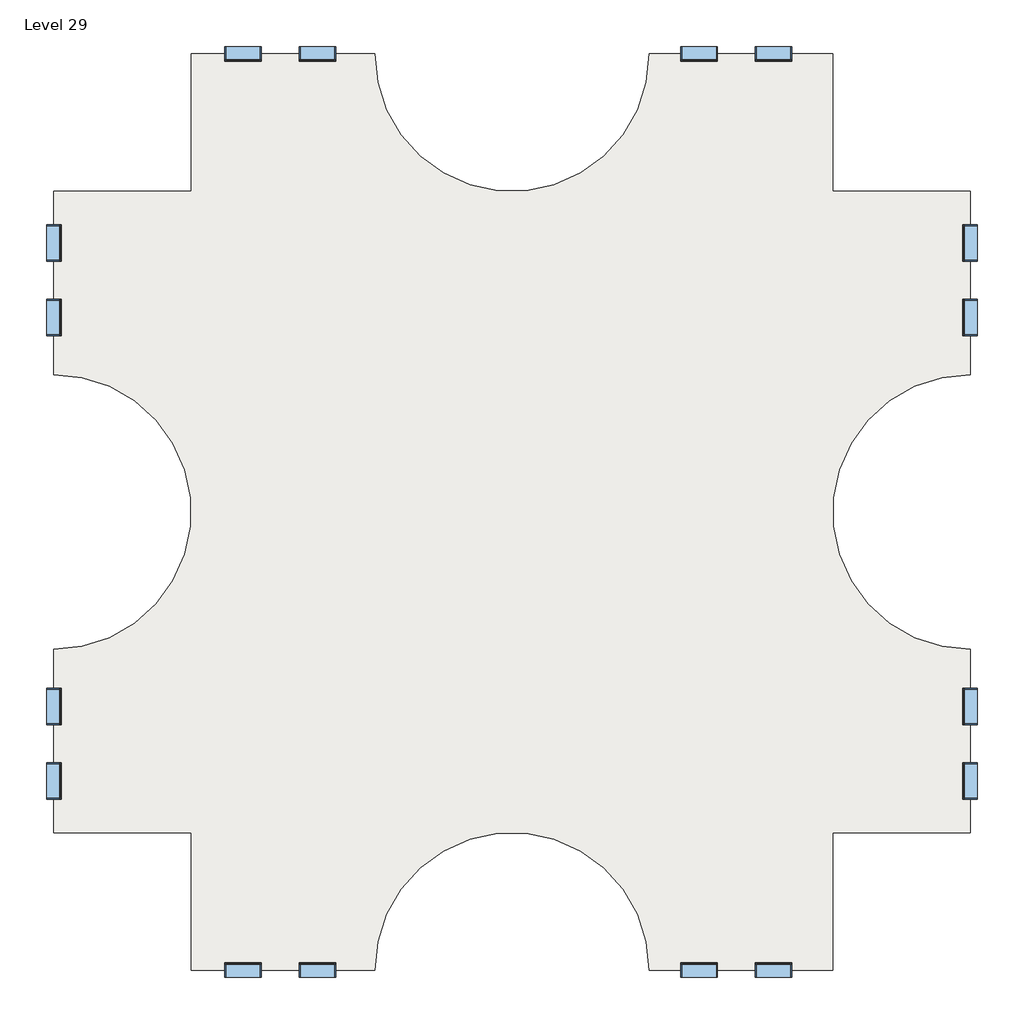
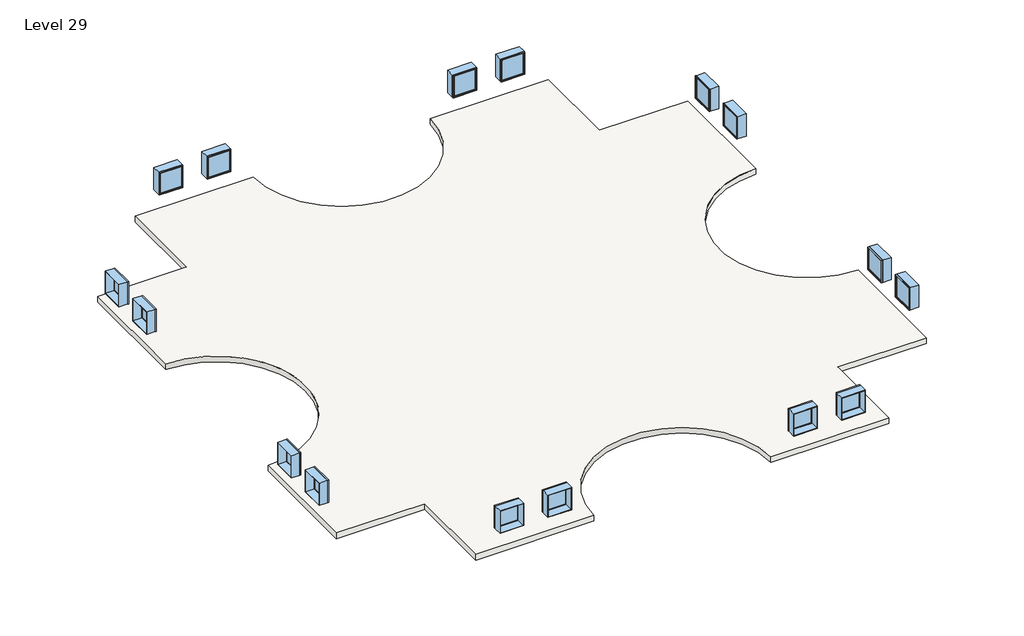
# One storey: 16 windows, 3 slabs.
"""IFC4 building model written with IfcOpenShell, lengths in millimetres."""

import ifcopenshell
import ifcopenshell.guid

model = None  # the IFC model being written
_history = None  # IfcOwnerHistory: only IFC2X3 demands one
_inside = {}  # id of a spatial element -> (the spatial element, [elements in it])
_under = {}  # id of a project, library or spatial element -> (it, [spatial elements below it])
_declared = {}  # id of a project -> (the project, [libraries it declares])
_typed = {}  # id of a type object -> (the type object, [elements of that type])
_made_of = {}  # id of a material, layer set ... -> (it, [elements and type objects made of it])


def new_model(schema):
    """Start an empty IFC model of exactly this schema.

    Asked for "IFC4X3", IfcOpenShell would pick the latest addendum, in which some entities
    have other attributes; the version numbers below select the first issue.
    IFC2X3 requires an IfcOwnerHistory on every rooted entity: one is made here for all.
    """
    global model, _history
    if schema == "IFC4X3":
        model = ifcopenshell.file(schema_version=(4, 3, 0, 0))
    else:
        model = ifcopenshell.file(schema=schema)
    _inside.clear()
    _under.clear()
    _declared.clear()
    _typed.clear()
    _made_of.clear()
    _history = None
    if model.schema == "IFC2X3":
        org = make("IfcOrganization", Name="unknown")
        user = make(
            "IfcPersonAndOrganization",
            ThePerson=make("IfcPerson", FamilyName="unknown"),
            TheOrganization=org,
        )
        app = make(
            "IfcApplication",
            ApplicationDeveloper=org,
            Version="unknown",
            ApplicationFullName="unknown",
            ApplicationIdentifier="unknown",
        )
        _history = make(
            "IfcOwnerHistory",
            OwningUser=user,
            OwningApplication=app,
            ChangeAction="ADDED",
            CreationDate=0,
        )
    return model


def make(cls, **values):
    """One entity of the class cls with the attributes given. An attribute that is None is left unset."""
    return model.create_entity(
        cls, **{name: value for name, value in values.items() if value is not None}
    )


def rooted(cls, **values):
    """An entity with a GlobalId (a new one), such as an element, a storey or a relation."""
    return make(cls, GlobalId=ifcopenshell.guid.new(), OwnerHistory=_history, **values)


def si_unit(unit_type, name, prefix=None):
    """IfcSIUnit, for example si_unit("LENGTHUNIT", "METRE", prefix="MILLI")."""
    return make("IfcSIUnit", UnitType=unit_type, Prefix=prefix, Name=name)


def assignment(units):
    """IfcUnitAssignment: the units of a project."""
    return None if units is None else make("IfcUnitAssignment", Units=units)


def point(xyz):
    """IfcCartesianPoint."""
    return None if xyz is None else make("IfcCartesianPoint", Coordinates=xyz)


def direction(xyz):
    """IfcDirection."""
    return None if xyz is None else make("IfcDirection", DirectionRatios=xyz)


def frame(location, z_axis=None, x_axis=None):
    """IfcAxis2Placement3D, a coordinate frame: its origin and axes. An axis left out is left unset."""
    return make(
        "IfcAxis2Placement3D",
        Location=point(location),
        Axis=direction(z_axis),
        RefDirection=direction(x_axis),
    )


def frame_2d(location, x_axis=None):
    """IfcAxis2Placement2D, a coordinate frame in the plane: its origin and x axis."""
    return make(
        "IfcAxis2Placement2D", Location=point(location), RefDirection=direction(x_axis)
    )


def origin():
    """The frame at (0, 0, 0) with its axes left unset."""
    return frame((0.0, 0.0, 0.0))


def place(relative_to, where):
    """IfcLocalPlacement: puts the frame where relative to a parent placement (None: the world)."""
    return make(
        "IfcLocalPlacement", PlacementRelTo=relative_to, RelativePlacement=where
    )


def context(
    kind, dimensions, precision=None, world=None, true_north=None, identifier=None
):
    """IfcGeometricRepresentationContext, for example the 3D "Model" context."""
    return make(
        "IfcGeometricRepresentationContext",
        ContextIdentifier=identifier,
        ContextType=kind,
        CoordinateSpaceDimension=dimensions,
        Precision=precision,
        WorldCoordinateSystem=world,
        TrueNorth=true_north,
    )


def project(units=None, contexts=None):
    """IfcProject with its units and contexts."""
    return rooted(
        "IfcProject",
        Name="project",
        RepresentationContexts=contexts,
        UnitsInContext=assignment(units),
    )


def spatial(cls, under=None, at=None, **own):
    """A site, building, storey or space (cls), placed at a placement, below another one or the project."""
    s = rooted(cls, ObjectPlacement=at, **own)
    if under is not None:
        _under.setdefault(under.id(), (under, []))[1].append(s)
    return s


def polyline(points):
    """IfcPolyline through the points."""
    return make("IfcPolyline", Points=[point(p) for p in points])


def circle_curve(where, radius):
    """IfcCircle in the frame where."""
    return make("IfcCircle", Position=where, Radius=radius)


def trimmed(basis, trim1, trim2, sense, master):
    """IfcTrimmedCurve: the piece of a basis curve between two trims."""
    return make(
        "IfcTrimmedCurve",
        BasisCurve=basis,
        Trim1=trim1,
        Trim2=trim2,
        SenseAgreement=sense,
        MasterRepresentation=master,
    )


def segment(curve, same_sense, transition):
    """IfcCompositeCurveSegment."""
    return make(
        "IfcCompositeCurveSegment",
        Transition=transition,
        SameSense=same_sense,
        ParentCurve=curve,
    )


def composite_curve(segments, self_intersect=None):
    """IfcCompositeCurve: segments joined end to end."""
    return make("IfcCompositeCurve", Segments=segments, SelfIntersect=self_intersect)


def outline(outer, holes=None, kind="AREA"):
    """IfcArbitraryClosedProfileDef: a profile drawn as a closed curve; with holes, ...WithVoids."""
    if holes is None:
        return make("IfcArbitraryClosedProfileDef", ProfileType=kind, OuterCurve=outer)
    return make(
        "IfcArbitraryProfileDefWithVoids",
        ProfileType=kind,
        OuterCurve=outer,
        InnerCurves=holes,
    )


def extrude(swept, where, along, depth):
    """IfcExtrudedAreaSolid: the profile swept, set in the frame where, extruded along a direction by depth."""
    return make(
        "IfcExtrudedAreaSolid",
        SweptArea=swept,
        Position=where,
        ExtrudedDirection=direction(along),
        Depth=depth,
    )


def shape(context_of_items, identifier, shape_type, items):
    """IfcShapeRepresentation: the items that make up one representation, for example the "Body"."""
    return make(
        "IfcShapeRepresentation",
        ContextOfItems=context_of_items,
        RepresentationIdentifier=identifier,
        RepresentationType=shape_type,
        Items=items,
    )


def source(mapping_origin, context_of_items, identifier, shape_type, items):
    """IfcRepresentationMap: a shape defined once, which mapped items show again and again."""
    return make(
        "IfcRepresentationMap",
        MappingOrigin=mapping_origin,
        MappedRepresentation=shape(context_of_items, identifier, shape_type, items),
    )


def transform(
    local_origin,
    x_axis=None,
    y_axis=None,
    z_axis=None,
    scale=None,
    scale2=None,
    scale3=None,
    uniform=True,
):
    """IfcCartesianTransformationOperator3D, or its non-uniform kind. x_axis, y_axis, z_axis: its Axis1, 2, 3."""
    if uniform:
        return make(
            "IfcCartesianTransformationOperator3D",
            Axis1=direction(x_axis),
            Axis2=direction(y_axis),
            LocalOrigin=point(local_origin),
            Scale=scale,
            Axis3=direction(z_axis),
        )
    return make(
        "IfcCartesianTransformationOperator3DnonUniform",
        Axis1=direction(x_axis),
        Axis2=direction(y_axis),
        LocalOrigin=point(local_origin),
        Scale=scale,
        Axis3=direction(z_axis),
        Scale2=scale2,
        Scale3=scale3,
    )


def mapped(mapping_source, mapping_target):
    """IfcMappedItem: shows the shape of a source again, moved by a transform."""
    return make(
        "IfcMappedItem", MappingSource=mapping_source, MappingTarget=mapping_target
    )


def made_of(thing, what):
    """Note that an element or type object is made of a material, layer set ...; save() writes the relation."""
    if what is not None:
        _made_of.setdefault(what.id(), (what, []))[1].append(thing)
    return thing


def element(
    cls,
    number,
    at=None,
    inside=None,
    cuts=None,
    type_object=None,
    material=None,
    context=None,
    identifier="Body",
    shape_type=None,
    held_by="IfcProductDefinitionShape",
    body=None,
    shapes=None,
    **own,
):
    """One element of the class cls, such as IfcWall. Its Tag is "e" and its number.

    at: its placement. inside: the storey or other place that contains it. cuts: it is an
    opening in that element (IfcRelVoidsElement). A single representation is given by context,
    identifier, shape_type and body (its items); several are given by shapes. held_by: the class
    of the entity that holds the representations. save() writes the other relations.
    """
    e = rooted(cls, Tag="e%d" % number, ObjectPlacement=at, **own)
    if body is not None:
        shapes = [shape(context, identifier, shape_type, body)]
    if shapes is not None:
        e.Representation = make(held_by, Representations=shapes)
    if inside is not None:
        _inside.setdefault(inside.id(), (inside, []))[1].append(e)
    if cuts is not None:
        rooted(
            "IfcRelVoidsElement", RelatingBuildingElement=cuts, RelatedOpeningElement=e
        )
    if type_object is not None:
        _typed.setdefault(type_object.id(), (type_object, []))[1].append(e)
    return made_of(e, material)


def aggregate(whole, parts):
    """IfcRelAggregates: a whole, such as a stair, and the parts it consists of."""
    return rooted("IfcRelAggregates", RelatingObject=whole, RelatedObjects=parts)


def save(model, path):
    """Write the relations noted so far, then the file.

    IfcRelAggregates (storeys below a building ...), IfcRelContainedInSpatialStructure (elements
    in a storey), IfcRelDefinesByType, IfcRelAssociatesMaterial and IfcRelDeclares: one each for
    every whole, place, type object, material and project.
    """
    for whole, parts in _under.values():
        aggregate(whole, parts)
    for where, things in _inside.values():
        rooted(
            "IfcRelContainedInSpatialStructure",
            RelatedElements=things,
            RelatingStructure=where,
        )
    for kind, things in _typed.values():
        rooted("IfcRelDefinesByType", RelatedObjects=things, RelatingType=kind)
    for what, things in _made_of.values():
        rooted("IfcRelAssociatesMaterial", RelatedObjects=things, RelatingMaterial=what)
    for by, libraries in _declared.values():
        rooted("IfcRelDeclares", RelatingContext=by, RelatedDefinitions=libraries)
    model.write(path)


def window_d0035ecf(model_context):
    return source(origin(), model_context, "Body", "SweptSolid", [
        extrude(outline(polyline([(508.0, 200.025), (-584.2, 200.025), (-584.2, 212.725), (508.0, 212.725), (508.0, 200.025)])), frame((0.0, 0.0, 977.9), z_axis=(0.0, 0.0, 1.0), x_axis=(1.0, 0.0, 0.0)), (0.0, 0.0, 1.0), 1092.2),
        extrude(outline(polyline([(2114.55, -628.65), (933.45, -628.65), (933.45, 552.45), (2114.55, 552.45), (2114.55, -628.65)]), holes=[polyline([(2070.1, -584.2), (2070.1, 508.0), (977.9, 508.0), (977.9, -584.2), (2070.1, -584.2)])]), frame((0.0, 184.15, 0.0), z_axis=(0.0, 1.0, 0.0), x_axis=(0.0, 0.0, 1.0)), (0.0, 0.0, 1.0), 44.45),
        extrude(outline(polyline([(2133.6, -647.7), (914.4, -647.7), (914.4, 571.5), (2133.6, 571.5), (2133.6, -647.7)]), holes=[polyline([(2101.85, -615.95), (2101.85, 539.75), (946.15, 539.75), (946.15, -615.95), (2101.85, -615.95)])]), frame((0.0, -247.65, 0.0), z_axis=(0.0, 1.0, 0.0), x_axis=(0.0, 0.0, 1.0)), (0.0, 0.0, 1.0), 431.8),
        extrude(outline(polyline([(2133.6, 571.5), (2133.6, -647.7), (914.4, -647.7), (914.4, 571.5), (2133.6, 571.5)]), holes=[polyline([(2114.55, 552.45), (933.45, 552.45), (933.45, -628.65), (2114.55, -628.65), (2114.55, 552.45)])]), frame((0.0, 184.15, 0.0), z_axis=(0.0, 1.0, 0.0), x_axis=(0.0, 0.0, 1.0)), (0.0, 0.0, 1.0), 63.5),
    ])


def window_d434eb62(model_context):
    return source(origin(), model_context, "Body", "SweptSolid", [
        extrude(outline(polyline([(508.0, -200.025), (508.0, -212.725), (-584.2, -212.725), (-584.2, -200.025), (508.0, -200.025)])), frame((0.0, 0.0, 977.9), z_axis=(0.0, 0.0, 1.0), x_axis=(1.0, 0.0, 0.0)), (0.0, 0.0, 1.0), 1092.2),
        extrude(outline(polyline([(2114.55, -628.65), (933.45, -628.65), (933.45, 552.45), (2114.55, 552.45), (2114.55, -628.65)]), holes=[polyline([(2070.1, -584.2), (2070.1, 508.0), (977.9, 508.0), (977.9, -584.2), (2070.1, -584.2)])]), frame((0.0, -228.6, 0.0), z_axis=(0.0, 1.0, 0.0), x_axis=(0.0, 0.0, 1.0)), (0.0, 0.0, 1.0), 44.45),
        extrude(outline(polyline([(2133.6, -647.7), (914.4, -647.7), (914.4, 571.5), (2133.6, 571.5), (2133.6, -647.7)]), holes=[polyline([(2101.85, -615.95), (2101.85, 539.75), (946.15, 539.75), (946.15, -615.95), (2101.85, -615.95)])]), frame((0.0, -184.15, 0.0), z_axis=(0.0, 1.0, 0.0), x_axis=(0.0, 0.0, 1.0)), (0.0, 0.0, 1.0), 431.8),
        extrude(outline(polyline([(2133.6, 571.5), (2133.6, -647.7), (914.4, -647.7), (914.4, 571.5), (2133.6, 571.5)]), holes=[polyline([(2114.55, 552.45), (933.45, 552.45), (933.45, -628.65), (2114.55, -628.65), (2114.55, 552.45)])]), frame((0.0, -247.65, 0.0), z_axis=(0.0, 1.0, 0.0), x_axis=(0.0, 0.0, 1.0)), (0.0, 0.0, 1.0), 63.5),
    ])


model = new_model("IFC4")

# Units and contexts
model_context = context("Model", 3, world=origin())
ifc_project = project(units=[si_unit("LENGTHUNIT", "METRE", prefix="MILLI")], contexts=[model_context])

# Site, building, storey
site = spatial("IfcSite", under=ifc_project)
building = spatial("IfcBuilding", under=site)
storey = spatial("IfcBuildingStorey", under=building, Name="Level 29", Elevation=85344.0)

# Slabs
placement = place(None, origin())
element("IfcSlab", 1, ObjectType="Generic - 12\"", at=placement, inside=storey, context=model_context, shape_type="SweptSolid", body=[
    extrude(outline(composite_curve([segment(polyline([(-7150.3629456, 4479.6634547), (-7150.3629456, 9051.6634547), (-1054.3629456, 9051.6634547)]), True, "CONTINUOUS"), segment(trimmed(circle_curve(frame_2d((3517.6370544, 9051.6634547)), 4572.0), [point((-1054.3629456, 9051.6634547))], [point((8089.6370544, 9051.6634547))], True, "CARTESIAN"), True, "CONTINUOUS"), segment(polyline([(8089.6370544, 9051.6634547), (14185.6370544, 9051.6634547), (14185.6370544, 4479.6634547), (18757.6370544, 4479.6634547), (18757.6370544, -1616.3365453)]), True, "CONTINUOUS"), segment(trimmed(circle_curve(frame_2d((18757.6370544, -6188.3365453)), 4572.0), [point((18757.6370544, -1616.3365453))], [point((18757.6370544, -10760.3365453))], True, "CARTESIAN"), True, "CONTINUOUS"), segment(polyline([(18757.6370544, -10760.3365453), (18757.6370544, -16856.3365453), (14185.6370544, -16856.3365453), (14185.6370544, -21428.3365453), (8089.6370544, -21428.3365453)]), True, "CONTINUOUS"), segment(trimmed(circle_curve(frame_2d((3517.6370544, -21428.3365453)), 4572.0), [point((8089.6370544, -21428.3365453))], [point((-1054.3629456, -21428.3365453))], True, "CARTESIAN"), True, "CONTINUOUS"), segment(polyline([(-1054.3629456, -21428.3365453), (-7150.3629456, -21428.3365453), (-7150.3629456, -16856.3365453), (-11722.3629456, -16856.3365453), (-11722.3629456, -10760.3365453)]), True, "CONTINUOUS"), segment(trimmed(circle_curve(frame_2d((-11722.3629456, -6188.3365453)), 4572.0), [point((-11722.3629456, -10760.3365453))], [point((-11722.3629456, -1616.3365453))], True, "CARTESIAN"), True, "CONTINUOUS"), segment(polyline([(-11722.3629456, -1616.3365453), (-11722.3629456, 4479.6634547), (-7150.3629456, 4479.6634547)]), True, "CONTINUOUS")], self_intersect=False)), frame((0.0, 0.0, 85039.2), z_axis=(0.0, 0.0, 1.0), x_axis=(1.0, 0.0, 0.0)), (0.0, 0.0, 1.0), 304.8),
])
element("IfcSlab", 2, ObjectType="Generic - 12\"", at=placement, inside=storey, context=model_context, shape_type="SweptSolid", body=[
    extrude(outline(composite_curve([segment(polyline([(-7150.3629456, 4479.6634547), (-7150.3629456, 9051.6634547), (-1054.3629456, 9051.6634547)]), True, "CONTINUOUS"), segment(trimmed(circle_curve(frame_2d((3517.6370544, 9051.6634547)), 4572.0), [point((-1054.3629456, 9051.6634547))], [point((8089.6370544, 9051.6634547))], True, "CARTESIAN"), True, "CONTINUOUS"), segment(polyline([(8089.6370544, 9051.6634547), (14185.6370544, 9051.6634547), (14185.6370544, 4479.6634547), (18757.6370544, 4479.6634547), (18757.6370544, -1616.3365453)]), True, "CONTINUOUS"), segment(trimmed(circle_curve(frame_2d((18757.6370544, -6188.3365453)), 4572.0), [point((18757.6370544, -1616.3365453))], [point((18757.6370544, -10760.3365453))], True, "CARTESIAN"), True, "CONTINUOUS"), segment(polyline([(18757.6370544, -10760.3365453), (18757.6370544, -16856.3365453), (14185.6370544, -16856.3365453), (14185.6370544, -21428.3365453), (8089.6370544, -21428.3365453)]), True, "CONTINUOUS"), segment(trimmed(circle_curve(frame_2d((3517.6370544, -21428.3365453)), 4572.0), [point((8089.6370544, -21428.3365453))], [point((-1054.3629456, -21428.3365453))], True, "CARTESIAN"), True, "CONTINUOUS"), segment(polyline([(-1054.3629456, -21428.3365453), (-7150.3629456, -21428.3365453), (-7150.3629456, -16856.3365453), (-11722.3629456, -16856.3365453), (-11722.3629456, -10760.3365453)]), True, "CONTINUOUS"), segment(trimmed(circle_curve(frame_2d((-11722.3629456, -6188.3365453)), 4572.0), [point((-11722.3629456, -10760.3365453))], [point((-11722.3629456, -1616.3365453))], True, "CARTESIAN"), True, "CONTINUOUS"), segment(polyline([(-11722.3629456, -1616.3365453), (-11722.3629456, 4479.6634547), (-7150.3629456, 4479.6634547)]), True, "CONTINUOUS")], self_intersect=False)), frame((0.0, 0.0, 85039.2), z_axis=(0.0, 0.0, 1.0), x_axis=(1.0, 0.0, 0.0)), (0.0, 0.0, 1.0), 304.8),
])
element("IfcSlab", 3, ObjectType="Generic - 12\"", at=placement, inside=storey, context=model_context, shape_type="SweptSolid", body=[
    extrude(outline(composite_curve([segment(polyline([(-7150.3629456, 4479.6634547), (-7150.3629456, 9051.6634547), (-1054.3629456, 9051.6634547)]), True, "CONTINUOUS"), segment(trimmed(circle_curve(frame_2d((3517.6370544, 9051.6634547)), 4572.0), [point((-1054.3629456, 9051.6634547))], [point((8089.6370544, 9051.6634547))], True, "CARTESIAN"), True, "CONTINUOUS"), segment(polyline([(8089.6370544, 9051.6634547), (14185.6370544, 9051.6634547), (14185.6370544, 4479.6634547), (18757.6370544, 4479.6634547), (18757.6370544, -1616.3365453)]), True, "CONTINUOUS"), segment(trimmed(circle_curve(frame_2d((18757.6370544, -6188.3365453)), 4572.0), [point((18757.6370544, -1616.3365453))], [point((18757.6370544, -10760.3365453))], True, "CARTESIAN"), True, "CONTINUOUS"), segment(polyline([(18757.6370544, -10760.3365453), (18757.6370544, -16856.3365453), (14185.6370544, -16856.3365453), (14185.6370544, -21428.3365453), (8089.6370544, -21428.3365453)]), True, "CONTINUOUS"), segment(trimmed(circle_curve(frame_2d((3517.6370544, -21428.3365453)), 4572.0), [point((8089.6370544, -21428.3365453))], [point((-1054.3629456, -21428.3365453))], True, "CARTESIAN"), True, "CONTINUOUS"), segment(polyline([(-1054.3629456, -21428.3365453), (-7150.3629456, -21428.3365453), (-7150.3629456, -16856.3365453), (-11722.3629456, -16856.3365453), (-11722.3629456, -10760.3365453)]), True, "CONTINUOUS"), segment(trimmed(circle_curve(frame_2d((-11722.3629456, -6188.3365453)), 4572.0), [point((-11722.3629456, -10760.3365453))], [point((-11722.3629456, -1616.3365453))], True, "CARTESIAN"), True, "CONTINUOUS"), segment(polyline([(-11722.3629456, -1616.3365453), (-11722.3629456, 4479.6634547), (-7150.3629456, 4479.6634547)]), True, "CONTINUOUS")], self_intersect=False)), frame((0.0, 0.0, 85039.2), z_axis=(0.0, 0.0, 1.0), x_axis=(1.0, 0.0, 0.0)), (0.0, 0.0, 1.0), 304.8),
])

# Windows
window_shape = window_d0035ecf(model_context)
element("IfcWindow", 4, ObjectType="Fixed : 48\" x 48\"", at=placement, inside=storey, context=model_context, shape_type="MappedRepresentation", body=[
    mapped(window_shape, transform((-11719.1879456, 247.3884547, 85344.0), x_axis=(0.0, -1.0, 0.0), y_axis=(1.0, 0.0, 0.0), z_axis=(0.0, 0.0, 1.0))),
])
element("IfcWindow", 5, ObjectType="Fixed : 48\" x 48\"", at=placement, inside=storey, context=model_context, shape_type="MappedRepresentation", body=[
    mapped(window_shape, transform((-5469.1993281, 9048.4884547, 85344.0), x_axis=(-1.0, 0.0, 0.0), y_axis=(0.0, -1.0, 0.0), z_axis=(0.0, 0.0, 1.0))),
])
element("IfcWindow", 6, ObjectType="Fixed : 48\" x 48\"", at=placement, inside=storey, context=model_context, shape_type="MappedRepresentation", body=[
    mapped(window_shape, transform((-11719.1879456, -15175.1729277, 85344.0), x_axis=(0.0, -1.0, 0.0), y_axis=(1.0, 0.0, 0.0), z_axis=(0.0, 0.0, 1.0))),
])
element("IfcWindow", 7, ObjectType="Fixed : 48\" x 48\"", at=placement, inside=storey, context=model_context, shape_type="MappedRepresentation", body=[
    mapped(window_shape, transform((-2918.0879456, -21425.1615453, 85344.0), x_axis=(1.0, 0.0, 0.0), y_axis=(0.0, 1.0, 0.0), z_axis=(0.0, 0.0, 1.0))),
])
element("IfcWindow", 8, ObjectType="Fixed : 48\" x 48\"", at=placement, inside=storey, context=model_context, shape_type="MappedRepresentation", body=[
    mapped(window_shape, transform((18754.4620544, 2798.4998372, 85344.0), x_axis=(0.0, 1.0, 0.0), y_axis=(-1.0, 0.0, 0.0), z_axis=(0.0, 0.0, 1.0))),
])
element("IfcWindow", 9, ObjectType="Fixed : 48\" x 48\"", at=placement, inside=storey, context=model_context, shape_type="MappedRepresentation", body=[
    mapped(window_shape, transform((9705.7120544, 9048.4884547, 85344.0), x_axis=(-1.0, 0.0, 0.0), y_axis=(0.0, -1.0, 0.0), z_axis=(0.0, 0.0, 1.0))),
])
element("IfcWindow", 10, ObjectType="Fixed : 48\" x 48\"", at=placement, inside=storey, context=model_context, shape_type="MappedRepresentation", body=[
    mapped(window_shape, transform((18754.4620544, -12624.0615453, 85344.0), x_axis=(0.0, 1.0, 0.0), y_axis=(-1.0, 0.0, 0.0), z_axis=(0.0, 0.0, 1.0))),
])
element("IfcWindow", 11, ObjectType="Fixed : 48\" x 48\"", at=placement, inside=storey, context=model_context, shape_type="MappedRepresentation", body=[
    mapped(window_shape, transform((12256.8234368, -21425.1615453, 85344.0), x_axis=(1.0, 0.0, 0.0), y_axis=(0.0, 1.0, 0.0), z_axis=(0.0, 0.0, 1.0))),
])
window_2_shape = window_d434eb62(model_context)
element("IfcWindow", 12, ObjectType="Fixed : 48\" x 48\"", at=placement, inside=storey, context=model_context, shape_type="MappedRepresentation", body=[
    mapped(window_2_shape, transform((-11719.1879456, 2798.4998372, 85344.0), x_axis=(0.0, 1.0, 0.0), y_axis=(-1.0, 0.0, 0.0), z_axis=(0.0, 0.0, 1.0))),
])
element("IfcWindow", 13, ObjectType="Fixed : 48\" x 48\"", at=placement, inside=storey, context=model_context, shape_type="MappedRepresentation", body=[
    mapped(window_2_shape, transform((-2918.0879456, 9048.4884547, 85344.0), x_axis=(1.0, 0.0, 0.0), y_axis=(0.0, 1.0, 0.0), z_axis=(0.0, 0.0, 1.0))),
])
element("IfcWindow", 14, ObjectType="Fixed : 48\" x 48\"", at=placement, inside=storey, context=model_context, shape_type="MappedRepresentation", body=[
    mapped(window_2_shape, transform((-11719.1879456, -12624.0615453, 85344.0), x_axis=(0.0, 1.0, 0.0), y_axis=(-1.0, 0.0, 0.0), z_axis=(0.0, 0.0, 1.0))),
])
element("IfcWindow", 15, ObjectType="Fixed : 48\" x 48\"", at=placement, inside=storey, context=model_context, shape_type="MappedRepresentation", body=[
    mapped(window_2_shape, transform((-5469.1993281, -21425.1615453, 85344.0), x_axis=(-1.0, 0.0, 0.0), y_axis=(0.0, -1.0, 0.0), z_axis=(0.0, 0.0, 1.0))),
])
element("IfcWindow", 16, ObjectType="Fixed : 48\" x 48\"", at=placement, inside=storey, context=model_context, shape_type="MappedRepresentation", body=[
    mapped(window_2_shape, transform((18754.4620544, 247.3884547, 85344.0), x_axis=(0.0, -1.0, 0.0), y_axis=(1.0, 0.0, 0.0), z_axis=(0.0, 0.0, 1.0))),
])
element("IfcWindow", 17, ObjectType="Fixed : 48\" x 48\"", at=placement, inside=storey, context=model_context, shape_type="MappedRepresentation", body=[
    mapped(window_2_shape, transform((12256.8234368, 9048.4884547, 85344.0), x_axis=(1.0, 0.0, 0.0), y_axis=(0.0, 1.0, 0.0), z_axis=(0.0, 0.0, 1.0))),
])
element("IfcWindow", 18, ObjectType="Fixed : 48\" x 48\"", at=placement, inside=storey, context=model_context, shape_type="MappedRepresentation", body=[
    mapped(window_2_shape, transform((18754.4620544, -15175.1729277, 85344.0), x_axis=(0.0, -1.0, 0.0), y_axis=(1.0, 0.0, 0.0), z_axis=(0.0, 0.0, 1.0))),
])
element("IfcWindow", 19, ObjectType="Fixed : 48\" x 48\"", at=placement, inside=storey, context=model_context, shape_type="MappedRepresentation", body=[
    mapped(window_2_shape, transform((9705.7120544, -21425.1615453, 85344.0), x_axis=(-1.0, 0.0, 0.0), y_axis=(0.0, -1.0, 0.0), z_axis=(0.0, 0.0, 1.0))),
])

save(model, "model.ifc")
